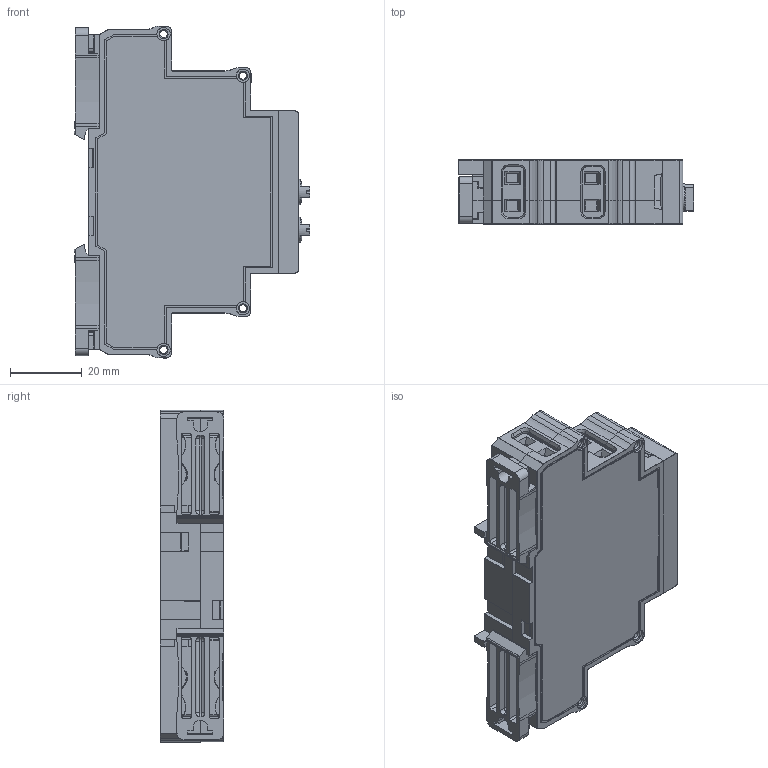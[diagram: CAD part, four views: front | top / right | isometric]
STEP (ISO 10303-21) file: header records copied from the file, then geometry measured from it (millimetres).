
FILE_DESCRIPTION(('STEP AP242'), '1');
FILE_NAME('ﾑ碚濱ﾐﾊﾒ-3-15', '', ('UNSPECIFIED'), ('UNSPECIFIED'), 'C3D Converter', 'C3D Toolkit', '');
FILE_SCHEMA(('AP242_MANAGED_MODEL_BASED_3D_ENGINEERING_MIM_LF { 1 0 10303 442 1 1 4 }'));
Length unit declared in the file: millimetre
Products named in the file (17): Case_UC1-2sR-2024_SimpleModel_6mm; Case_UC1-2sR-2024_SimpleModel_11mm; UC1-2sR-2024_Plug_18mm; Case_UC1-2sR_Face_2024_18mm__FR.FP.0000006; Case13-18-23mm_2step_Lock_v01a_Build20140909_1552; DG128-5.08_Configurable_5.08x3; R-knob_2017_Hex2mm__Џｮ гｬｮｫзｭЁо
Assembly tree (19 placements, depth 2):
  (unnamed)
    Case_UC1-2sR-2024_SimpleModel_6mm
    Case_UC1-2sR-2024_SimpleModel_11mm
    UC1-2sR-2024_Plug_18mm
    Case_UC1-2sR_Face_2024_18mm__FR.FP.0000006
    Case13-18-23mm_2step_Lock_v01a_Build20140909_1552  x2
    (unnamed)  x2
    DG128-5.08_Configurable_5.08x3
    (unnamed)
    R-knob_2017_Hex2mm__Џｮ гｬｮｫзｭЁо  x2
    (unnamed)
    (unnamed)
    (unnamed)
    (unnamed)
    (unnamed)
    (unnamed)
    (unnamed)
Bounding box: 65.63 x 17.75 x 92.4 mm (x, y, z)
Volume: 25607.6 mm3; surface area: 37712.9 mm2
Topology: 39 solids, 39 shells, 4242 faces, 11729 edges, 7556 vertices
Faces by surface type: plane 3003, cylinder 622, extrusion 321, torus 142, sphere 68, cone 66, bspline 20
Full cylindrical faces by diameter (mm): 1.238 x3, 2.1 x10, 2.2 x2, 3.7 x8, 3.9 x7, 4.5 x2, 5 x2
Entity records: 163186 total; most frequent: CARTESIAN_POINT 28169, ORIENTED_EDGE 22220, DIRECTION 19435, EDGE_CURVE 11110, VECTOR 9301, LINE 8980, VERTEX_POINT 7235, AXIS2_PLACEMENT_3D 5067
